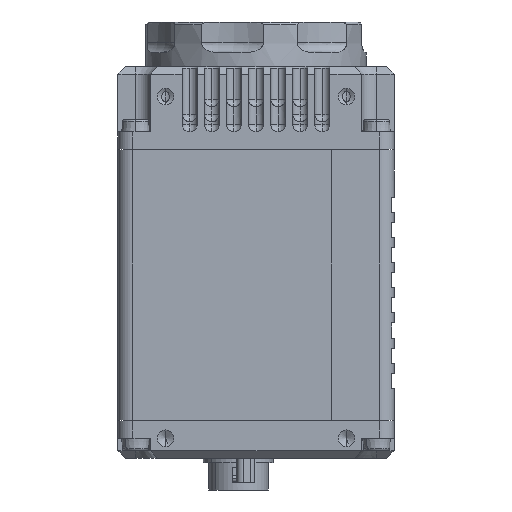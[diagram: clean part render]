
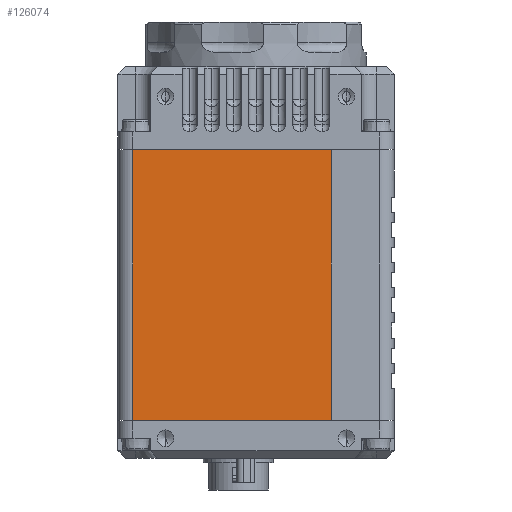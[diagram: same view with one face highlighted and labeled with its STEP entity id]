
A CAD part, left-side view. The second image highlights one B-rep face of the part: STEP entity #126074.
In plain terms, the highlighted planar face has unit normal (-1, 0, 0).
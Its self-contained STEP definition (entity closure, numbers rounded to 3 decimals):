
#6390 = LINE ( 'NONE', #112014, #105954 ) ;
#9458 = ORIENTED_EDGE ( 'NONE', *, *, #96304, .T. ) ;
#14960 = VECTOR ( 'NONE', #116779, 1000. ) ;
#18607 = CARTESIAN_POINT ( 'NONE',  ( -28.059, 25.651, 18.719 ) ) ;
#25435 = EDGE_CURVE ( 'NONE', #33348, #59890, #46178, .T. ) ;
#26832 = CARTESIAN_POINT ( 'NONE',  ( -28.059, -13.849, 18.719 ) ) ;
#30644 = CARTESIAN_POINT ( 'NONE',  ( -28.059, -13.849, 18.719 ) ) ;
#33348 = VERTEX_POINT ( 'NONE', #18607 ) ;
#33749 = LINE ( 'NONE', #54579, #73088 ) ;
#41571 = VERTEX_POINT ( 'NONE', #85990 ) ;
#42272 = ORIENTED_EDGE ( 'NONE', *, *, #130896, .T. ) ;
#46178 = LINE ( 'NONE', #130904, #53394 ) ;
#50107 = ORIENTED_EDGE ( 'NONE', *, *, #96480, .F. ) ;
#52537 = FACE_OUTER_BOUND ( 'NONE', #99917, .T. ) ;
#53394 = VECTOR ( 'NONE', #85895, 1000. ) ;
#54579 = CARTESIAN_POINT ( 'NONE',  ( -28.059, 25.651, 18.719 ) ) ;
#59890 = VERTEX_POINT ( 'NONE', #26832 ) ;
#67205 = VERTEX_POINT ( 'NONE', #135182 ) ;
#68507 = CARTESIAN_POINT ( 'NONE',  ( -28.059, 28.651, 18.719 ) ) ;
#73088 = VECTOR ( 'NONE', #95662, 1000. ) ;
#85895 = DIRECTION ( 'NONE',  ( 0., -1., 0. ) ) ;
#85990 = CARTESIAN_POINT ( 'NONE',  ( -28.059, 25.651, -35.181 ) ) ;
#87319 = DIRECTION ( 'NONE',  ( 1., 0., 0. ) ) ;
#90488 = DIRECTION ( 'NONE',  ( 0., -1., 0. ) ) ;
#95662 = DIRECTION ( 'NONE',  ( 0., 0., -1. ) ) ;
#96304 = EDGE_CURVE ( 'NONE', #41571, #67205, #6390, .T. ) ;
#96480 = EDGE_CURVE ( 'NONE', #59890, #67205, #104318, .T. ) ;
#99262 = ORIENTED_EDGE ( 'NONE', *, *, #25435, .F. ) ;
#99917 = EDGE_LOOP ( 'NONE', ( #99262, #42272, #9458, #50107 ) ) ;
#104318 = LINE ( 'NONE', #30644, #14960 ) ;
#104826 = AXIS2_PLACEMENT_3D ( 'NONE', #68507, #87319, #110141 ) ;
#105954 = VECTOR ( 'NONE', #90488, 1000. ) ;
#106067 = PLANE ( 'NONE',  #104826 ) ;
#110141 = DIRECTION ( 'NONE',  ( 0., 1., 0. ) ) ;
#112014 = CARTESIAN_POINT ( 'NONE',  ( -28.059, 28.651, -35.181 ) ) ;
#116779 = DIRECTION ( 'NONE',  ( 0., 0., -1. ) ) ;
#126074 = ADVANCED_FACE ( 'NONE', ( #52537 ), #106067, .F. ) ;
#130896 = EDGE_CURVE ( 'NONE', #33348, #41571, #33749, .T. ) ;
#130904 = CARTESIAN_POINT ( 'NONE',  ( -28.059, 28.651, 18.719 ) ) ;
#135182 = CARTESIAN_POINT ( 'NONE',  ( -28.059, -13.849, -35.181 ) ) ;
